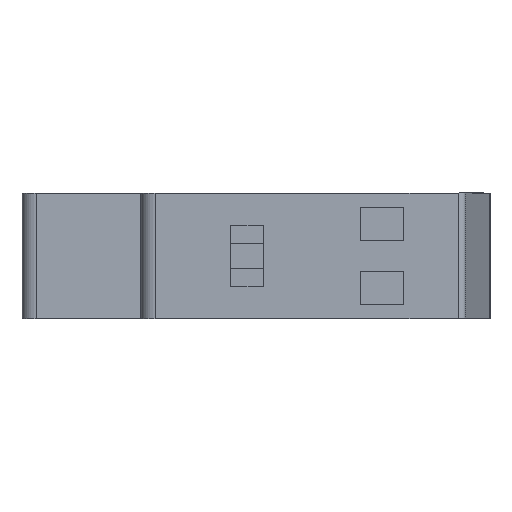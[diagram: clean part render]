
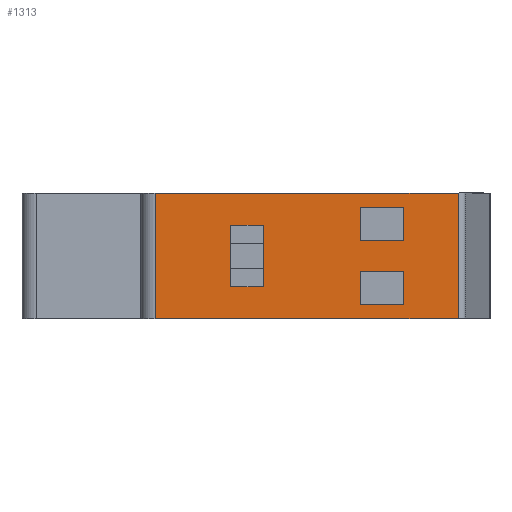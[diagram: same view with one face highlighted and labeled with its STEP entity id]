
A CAD part, left-side view. The second image highlights one B-rep face of the part: STEP entity #1313.
In plain terms, the highlighted planar face has unit normal (-1, 0, 0).
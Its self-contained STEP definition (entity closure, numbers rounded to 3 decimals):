
#966 = EDGE_CURVE ( 'NONE', #1462, #1009, #3677, .T. ) ;
#969 = EDGE_CURVE ( 'NONE', #1002, #1160, #3673, .T. ) ;
#976 = VERTEX_POINT ( 'NONE', #3659 ) ;
#978 = EDGE_CURVE ( 'NONE', #1160, #976, #3658, .T. ) ;
#988 = VERTEX_POINT ( 'NONE', #3605 ) ;
#990 = EDGE_CURVE ( 'NONE', #995, #988, #3604, .T. ) ;
#995 = VERTEX_POINT ( 'NONE', #3590 ) ;
#997 = EDGE_CURVE ( 'NONE', #1009, #995, #3589, .T. ) ;
#1002 = VERTEX_POINT ( 'NONE', #3575 ) ;
#1004 = EDGE_CURVE ( 'NONE', #1005, #1002, #3574, .T. ) ;
#1005 = VERTEX_POINT ( 'NONE', #3570 ) ;
#1009 = VERTEX_POINT ( 'NONE', #3563 ) ;
#1020 = EDGE_CURVE ( 'NONE', #976, #1005, #3543, .T. ) ;
#1160 = VERTEX_POINT ( 'NONE', #3846 ) ;
#1246 = VERTEX_POINT ( 'NONE', #3702 ) ;
#1252 = ORIENTED_EDGE ( 'NONE', *, *, #1312, .T. ) ;
#1253 = ORIENTED_EDGE ( 'NONE', *, *, #1254, .T. ) ;
#1254 = EDGE_CURVE ( 'NONE', #1246, #1543, #4128, .T. ) ;
#1255 = ORIENTED_EDGE ( 'NONE', *, *, #1542, .T. ) ;
#1284 = EDGE_CURVE ( 'NONE', #1297, #1505, #4009, .T. ) ;
#1289 = VERTEX_POINT ( 'NONE', #4005 ) ;
#1297 = VERTEX_POINT ( 'NONE', #4000 ) ;
#1302 = EDGE_CURVE ( 'NONE', #1289, #1303, #4176, .T. ) ;
#1303 = VERTEX_POINT ( 'NONE', #4172 ) ;
#1308 = ORIENTED_EDGE ( 'NONE', *, *, #990, .T. ) ;
#1309 = EDGE_LOOP ( 'NONE', ( #1310, #1252, #1253, #1255 ) ) ;
#1310 = ORIENTED_EDGE ( 'NONE', *, *, #1518, .T. ) ;
#1312 = EDGE_CURVE ( 'NONE', #1424, #1246, #4161, .T. ) ;
#1313 = ADVANCED_FACE ( 'NONE', ( #4157, #4156, #4155, #4154 ), #4153, .T. ) ;
#1318 = ORIENTED_EDGE ( 'NONE', *, *, #978, .T. ) ;
#1319 = ORIENTED_EDGE ( 'NONE', *, *, #1020, .T. ) ;
#1320 = ORIENTED_EDGE ( 'NONE', *, *, #1004, .T. ) ;
#1321 = ORIENTED_EDGE ( 'NONE', *, *, #969, .T. ) ;
#1322 = EDGE_LOOP ( 'NONE', ( #1323, #1324, #1325, #1308 ) ) ;
#1323 = ORIENTED_EDGE ( 'NONE', *, *, #1464, .T. ) ;
#1324 = ORIENTED_EDGE ( 'NONE', *, *, #966, .T. ) ;
#1325 = ORIENTED_EDGE ( 'NONE', *, *, #997, .T. ) ;
#1408 = VERTEX_POINT ( 'NONE', #3956 ) ;
#1424 = VERTEX_POINT ( 'NONE', #4325 ) ;
#1462 = VERTEX_POINT ( 'NONE', #4355 ) ;
#1464 = EDGE_CURVE ( 'NONE', #988, #1462, #4354, .T. ) ;
#1504 = EDGE_CURVE ( 'NONE', #1505, #1289, #4344, .T. ) ;
#1505 = VERTEX_POINT ( 'NONE', #4340 ) ;
#1507 = EDGE_CURVE ( 'NONE', #1303, #1297, #4339, .T. ) ;
#1518 = EDGE_CURVE ( 'NONE', #1408, #1424, #4303, .T. ) ;
#1542 = EDGE_CURVE ( 'NONE', #1543, #1408, #4228, .T. ) ;
#1543 = VERTEX_POINT ( 'NONE', #4224 ) ;
#1597 = EDGE_LOOP ( 'NONE', ( #1598, #1599, #1600, #1601 ) ) ;
#1598 = ORIENTED_EDGE ( 'NONE', *, *, #1507, .T. ) ;
#1599 = ORIENTED_EDGE ( 'NONE', *, *, #1284, .T. ) ;
#1600 = ORIENTED_EDGE ( 'NONE', *, *, #1504, .T. ) ;
#1601 = ORIENTED_EDGE ( 'NONE', *, *, #1302, .T. ) ;
#1602 = EDGE_LOOP ( 'NONE', ( #1318, #1319, #1320, #1321 ) ) ;
#3540 = DIRECTION ( 'NONE',  ( 0., -1., 0. ) ) ;
#3541 = VECTOR ( 'NONE', #3540, 1000. ) ;
#3542 = CARTESIAN_POINT ( 'NONE',  ( -42.5, -0.577, -2.15 ) ) ;
#3543 = LINE ( 'NONE', #3542, #3541 ) ;
#3563 = CARTESIAN_POINT ( 'NONE',  ( -42.5, 7., 6.75 ) ) ;
#3570 = CARTESIAN_POINT ( 'NONE',  ( -42.5, 7., -2.15 ) ) ;
#3571 = DIRECTION ( 'NONE',  ( 0., 0., -1. ) ) ;
#3572 = VECTOR ( 'NONE', #3571, 1000. ) ;
#3573 = CARTESIAN_POINT ( 'NONE',  ( -42.5, 7., -8.75 ) ) ;
#3574 = LINE ( 'NONE', #3573, #3572 ) ;
#3575 = CARTESIAN_POINT ( 'NONE',  ( -42.5, 7., -6.75 ) ) ;
#3586 = DIRECTION ( 'NONE',  ( 0., 0., -1. ) ) ;
#3587 = VECTOR ( 'NONE', #3586, 1000. ) ;
#3588 = CARTESIAN_POINT ( 'NONE',  ( -42.5, 7., -8.75 ) ) ;
#3589 = LINE ( 'NONE', #3588, #3587 ) ;
#3590 = CARTESIAN_POINT ( 'NONE',  ( -42.5, 7., 2.15 ) ) ;
#3601 = DIRECTION ( 'NONE',  ( 0., 1., 0. ) ) ;
#3602 = VECTOR ( 'NONE', #3601, 1000. ) ;
#3603 = CARTESIAN_POINT ( 'NONE',  ( -42.5, -0.577, 2.15 ) ) ;
#3604 = LINE ( 'NONE', #3603, #3602 ) ;
#3605 = CARTESIAN_POINT ( 'NONE',  ( -42.5, 13., 2.15 ) ) ;
#3655 = DIRECTION ( 'NONE',  ( 0., 0., 1. ) ) ;
#3656 = VECTOR ( 'NONE', #3655, 1000. ) ;
#3657 = CARTESIAN_POINT ( 'NONE',  ( -42.5, 13., -8.75 ) ) ;
#3658 = LINE ( 'NONE', #3657, #3656 ) ;
#3659 = CARTESIAN_POINT ( 'NONE',  ( -42.5, 13., -2.15 ) ) ;
#3670 = DIRECTION ( 'NONE',  ( 0., 1., 0. ) ) ;
#3671 = VECTOR ( 'NONE', #3670, 1000. ) ;
#3672 = CARTESIAN_POINT ( 'NONE',  ( -42.5, -0.577, -6.75 ) ) ;
#3673 = LINE ( 'NONE', #3672, #3671 ) ;
#3674 = DIRECTION ( 'NONE',  ( 0., -1., 0. ) ) ;
#3675 = VECTOR ( 'NONE', #3674, 1000. ) ;
#3676 = CARTESIAN_POINT ( 'NONE',  ( -42.5, -0.577, 6.75 ) ) ;
#3677 = LINE ( 'NONE', #3676, #3675 ) ;
#3702 = CARTESIAN_POINT ( 'NONE',  ( -42.5, 41.5, -8.75 ) ) ;
#3846 = CARTESIAN_POINT ( 'NONE',  ( -42.5, 13., -6.75 ) ) ;
#3956 = CARTESIAN_POINT ( 'NONE',  ( -42.5, -0.577, 8.75 ) ) ;
#3996 = CARTESIAN_POINT ( 'NONE',  ( -42.5, 25.043, -8.75 ) ) ;
#3998 = DIRECTION ( 'NONE',  ( 0., -1., 0. ) ) ;
#3999 = VECTOR ( 'NONE', #3998, 1000. ) ;
#4000 = CARTESIAN_POINT ( 'NONE',  ( -42.5, 31., 4.3 ) ) ;
#4005 = CARTESIAN_POINT ( 'NONE',  ( -42.5, 26.5, -4.3 ) ) ;
#4006 = DIRECTION ( 'NONE',  ( 0., -1., 0. ) ) ;
#4007 = VECTOR ( 'NONE', #4006, 1000. ) ;
#4008 = CARTESIAN_POINT ( 'NONE',  ( -42.5, -0.577, 4.3 ) ) ;
#4009 = LINE ( 'NONE', #4008, #4007 ) ;
#4128 = LINE ( 'NONE', #3996, #3999 ) ;
#4149 = DIRECTION ( 'NONE',  ( 0., 0., 1. ) ) ;
#4150 = DIRECTION ( 'NONE',  ( -1., 0., 0. ) ) ;
#4151 = CARTESIAN_POINT ( 'NONE',  ( -42.5, -0.577, -8.75 ) ) ;
#4152 = AXIS2_PLACEMENT_3D ( 'NONE', #4151, #4150, #4149 ) ;
#4153 = PLANE ( 'NONE',  #4152 ) ;
#4154 = FACE_OUTER_BOUND ( 'NONE', #1309, .T. ) ;
#4155 = FACE_BOUND ( 'NONE', #1322, .T. ) ;
#4156 = FACE_BOUND ( 'NONE', #1602, .T. ) ;
#4157 = FACE_BOUND ( 'NONE', #1597, .T. ) ;
#4158 = DIRECTION ( 'NONE',  ( 0., 0., -1. ) ) ;
#4159 = VECTOR ( 'NONE', #4158, 1000. ) ;
#4160 = CARTESIAN_POINT ( 'NONE',  ( -42.5, 41.5, -8.75 ) ) ;
#4161 = LINE ( 'NONE', #4160, #4159 ) ;
#4172 = CARTESIAN_POINT ( 'NONE',  ( -42.5, 31., -4.3 ) ) ;
#4173 = DIRECTION ( 'NONE',  ( 0., 1., 0. ) ) ;
#4174 = VECTOR ( 'NONE', #4173, 1000. ) ;
#4175 = CARTESIAN_POINT ( 'NONE',  ( -42.5, -0.577, -4.3 ) ) ;
#4176 = LINE ( 'NONE', #4175, #4174 ) ;
#4224 = CARTESIAN_POINT ( 'NONE',  ( -42.5, -0.577, -8.75 ) ) ;
#4225 = DIRECTION ( 'NONE',  ( 0., 0., 1. ) ) ;
#4226 = VECTOR ( 'NONE', #4225, 1000. ) ;
#4227 = CARTESIAN_POINT ( 'NONE',  ( -42.5, -0.577, -8.75 ) ) ;
#4228 = LINE ( 'NONE', #4227, #4226 ) ;
#4300 = DIRECTION ( 'NONE',  ( 0., 1., 0. ) ) ;
#4301 = VECTOR ( 'NONE', #4300, 1000. ) ;
#4302 = CARTESIAN_POINT ( 'NONE',  ( -42.5, -0.577, 8.75 ) ) ;
#4303 = LINE ( 'NONE', #4302, #4301 ) ;
#4325 = CARTESIAN_POINT ( 'NONE',  ( -42.5, 41.5, 8.75 ) ) ;
#4336 = DIRECTION ( 'NONE',  ( 0., 0., 1. ) ) ;
#4337 = VECTOR ( 'NONE', #4336, 1000. ) ;
#4338 = CARTESIAN_POINT ( 'NONE',  ( -42.5, 31., -8.75 ) ) ;
#4339 = LINE ( 'NONE', #4338, #4337 ) ;
#4340 = CARTESIAN_POINT ( 'NONE',  ( -42.5, 26.5, 4.3 ) ) ;
#4341 = DIRECTION ( 'NONE',  ( 0., 0., -1. ) ) ;
#4342 = VECTOR ( 'NONE', #4341, 1000. ) ;
#4343 = CARTESIAN_POINT ( 'NONE',  ( -42.5, 26.5, -8.75 ) ) ;
#4344 = LINE ( 'NONE', #4343, #4342 ) ;
#4351 = DIRECTION ( 'NONE',  ( 0., 0., 1. ) ) ;
#4352 = VECTOR ( 'NONE', #4351, 1000. ) ;
#4353 = CARTESIAN_POINT ( 'NONE',  ( -42.5, 13., -8.75 ) ) ;
#4354 = LINE ( 'NONE', #4353, #4352 ) ;
#4355 = CARTESIAN_POINT ( 'NONE',  ( -42.5, 13., 6.75 ) ) ;
